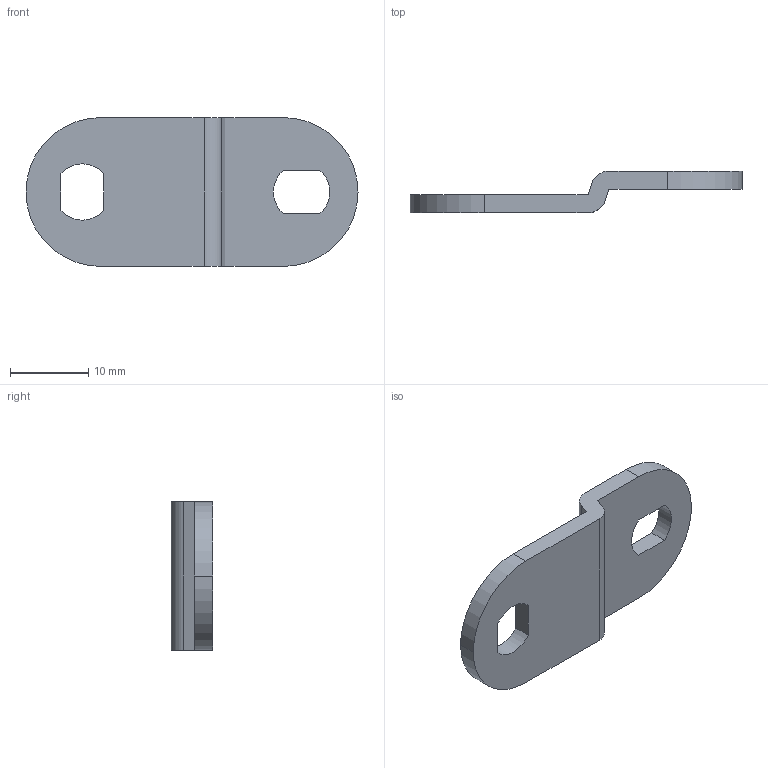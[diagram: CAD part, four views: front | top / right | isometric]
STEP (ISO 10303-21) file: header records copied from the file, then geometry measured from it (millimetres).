
FILE_DESCRIPTION (( 'STEP AP203' ), '1' );
FILE_NAME ('EB-300-F.STEP', '2013-06-05T06:27:22', ( 'SDS' ), ( 'SDS' ), 'SwSTEP 2.0', 'SolidWorks 2002296', '' );
FILE_SCHEMA (( 'CONFIG_CONTROL_DESIGN' ));
Length unit declared in the file: millimetre
Products named in the file (1): EB-300-F
Bounding box: 42.4 x 5.3 x 19 mm (x, y, z)
Volume: 1587.4 mm3; surface area: 1733.5 mm2
Topology: 1 solids, 1 shells, 23 faces, 63 edges, 42 vertices
Faces by surface type: plane 12, cylinder 11
Entity records: 824 total; most frequent: DIRECTION 133, CARTESIAN_POINT 129, ORIENTED_EDGE 126, EDGE_CURVE 63, AXIS2_PLACEMENT_3D 46, VERTEX_POINT 42, LINE 41, VECTOR 41
